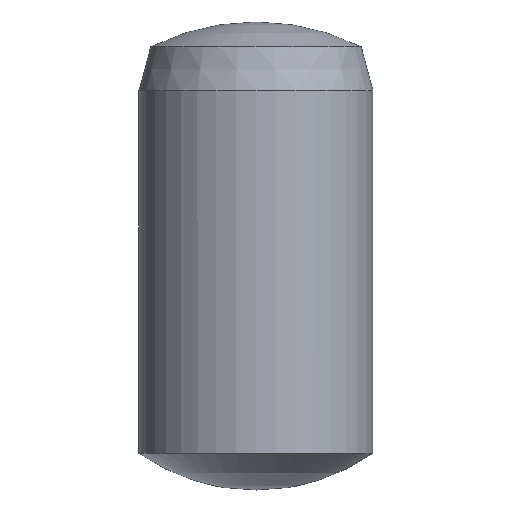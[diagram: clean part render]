
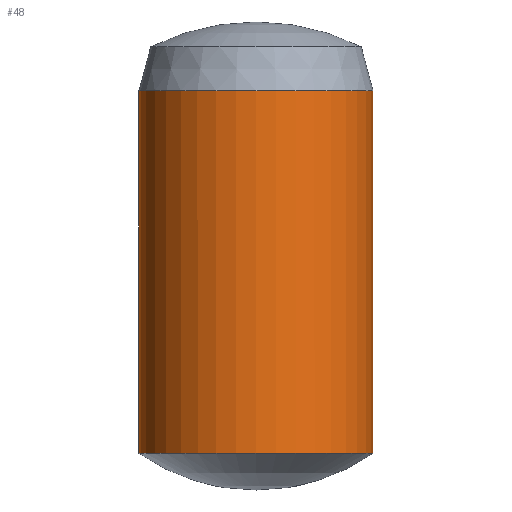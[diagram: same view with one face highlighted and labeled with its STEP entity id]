
A CAD part, front view. The second image highlights one B-rep face of the part: STEP entity #48.
In plain terms, the highlighted cylindrical face has radius 8 mm (diameter 16 mm), a partial arc.
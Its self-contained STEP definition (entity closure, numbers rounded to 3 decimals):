
#48=ADVANCED_FACE('',(#92),#93,.T.);
#92=FACE_OUTER_BOUND('',#128,.T.);
#93=CYLINDRICAL_SURFACE('',#129,8.0);
#128=EDGE_LOOP('',(#193,#194,#195,#196));
#129=AXIS2_PLACEMENT_3D('',#197,#198,#199);
#193=ORIENTED_EDGE('',*,*,#214,.T.);
#194=ORIENTED_EDGE('',*,*,#231,.F.);
#195=ORIENTED_EDGE('',*,*,#215,.T.);
#196=ORIENTED_EDGE('',*,*,#233,.F.);
#197=CARTESIAN_POINT('',(0.0,0.0,14.9));
#198=DIRECTION('',(0.0,0.0,1.0));
#199=DIRECTION('',(1.0,0.0,0.0));
#214=EDGE_CURVE('',#242,#246,#247,.T.);
#215=EDGE_CURVE('',#248,#237,#249,.T.);
#231=EDGE_CURVE('',#248,#246,#271,.T.);
#233=EDGE_CURVE('',#242,#237,#273,.T.);
#237=VERTEX_POINT('',#277);
#242=VERTEX_POINT('',#282);
#246=VERTEX_POINT('',#286);
#247=LINE('',#287,#288);
#248=VERTEX_POINT('',#289);
#249=LINE('',#290,#291);
#271=CIRCLE('',#315,8.0);
#273=CIRCLE('',#317,8.0);
#277=CARTESIAN_POINT('',(-8.0,0.,2.5));
#282=CARTESIAN_POINT('',(8.0,0.,2.5));
#286=CARTESIAN_POINT('',(8.0,0.0,27.3));
#287=CARTESIAN_POINT('',(8.0,0.,14.9));
#288=VECTOR('',#332,1.0);
#289=CARTESIAN_POINT('',(-8.0,0.,27.3));
#290=CARTESIAN_POINT('',(-8.0,0.,14.9));
#291=VECTOR('',#333,1.0);
#315=AXIS2_PLACEMENT_3D('',#360,#361,#362);
#317=AXIS2_PLACEMENT_3D('',#363,#364,#365);
#332=DIRECTION('',(0.0,0.0,1.0));
#333=DIRECTION('',(-0.0,-0.0,-1.0));
#360=CARTESIAN_POINT('',(0.0,0.0,27.3));
#361=DIRECTION('',(0.0,0.0,1.0));
#362=DIRECTION('',(1.0,0.0,0.0));
#363=CARTESIAN_POINT('',(0.0,0.0,2.5));
#364=DIRECTION('',(-0.0,-0.0,-1.0));
#365=DIRECTION('',(0.0,-1.0,0.0));
